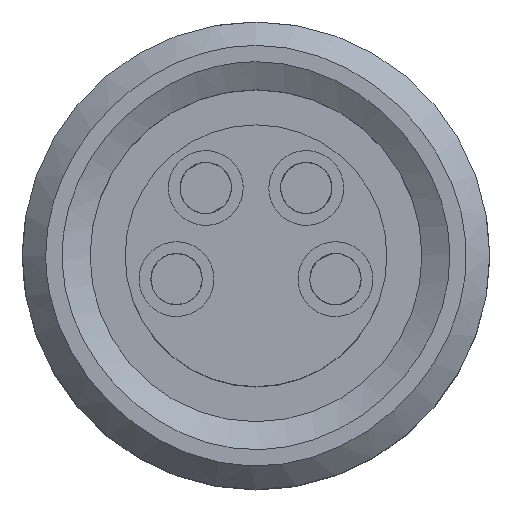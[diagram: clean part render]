
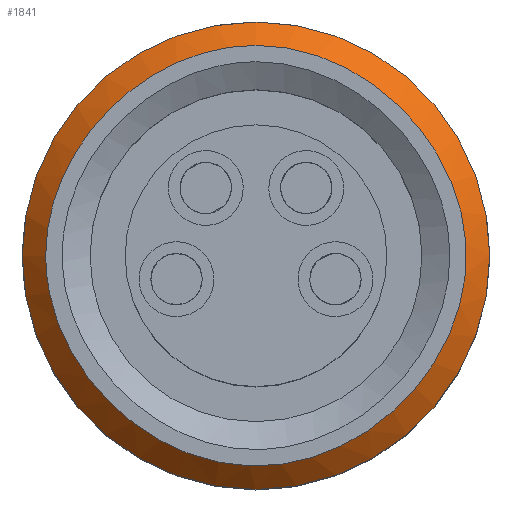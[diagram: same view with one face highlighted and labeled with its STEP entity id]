
A CAD part, top view. The second image highlights one B-rep face of the part: STEP entity #1841.
In plain terms, the highlighted conical face has half-angle 45 degrees and reference radius 5 mm.
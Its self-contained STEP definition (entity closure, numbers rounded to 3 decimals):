
#1455=CONICAL_SURFACE('',#3878,5.,45.);
#1675=B_SPLINE_CURVE_WITH_KNOTS('',3,(#6910,#6911,#6912,#6913,#6914,#6915,
#6916,#6917,#6918,#6919),.UNSPECIFIED.,.T.,.F.,(2,2,2,2,2,2,2),(-0.25,0.,
0.25,0.5,0.75,1.,1.25),.UNSPECIFIED.);
#1841=ADVANCED_FACE('',(#2067,#2068),#1455,.T.);
#2067=FACE_BOUND('',#2304,.T.);
#2068=FACE_BOUND('',#2305,.T.);
#2304=EDGE_LOOP('',(#2990));
#2305=EDGE_LOOP('',(#2991));
#2990=ORIENTED_EDGE('',*,*,#3585,.T.);
#2991=ORIENTED_EDGE('',*,*,#3584,.F.);
#3241=VERTEX_POINT('',#6908);
#3242=VERTEX_POINT('',#6920);
#3584=EDGE_CURVE('',#3241,#3241,#3660,.T.);
#3585=EDGE_CURVE('',#3242,#3242,#1675,.T.);
#3660=CIRCLE('',#3876,5.);
#3876=AXIS2_PLACEMENT_3D('',#6907,#4388,#4389);
#3878=AXIS2_PLACEMENT_3D('',#6921,#4392,#4393);
#4388=DIRECTION('',(0.,0.,-1.));
#4389=DIRECTION('',(-1.,0.,0.));
#4392=DIRECTION('',(0.,0.,-1.));
#4393=DIRECTION('',(-1.,0.,0.));
#6907=CARTESIAN_POINT('',(0.,0.,5.177));
#6908=CARTESIAN_POINT('',(-5.,0.,5.177));
#6910=CARTESIAN_POINT('',(-2.356,4.5,5.677));
#6911=CARTESIAN_POINT('',(2.356,4.5,5.677));
#6912=CARTESIAN_POINT('',(4.5,2.356,5.677));
#6913=CARTESIAN_POINT('',(4.5,-2.356,5.677));
#6914=CARTESIAN_POINT('',(2.356,-4.5,5.677));
#6915=CARTESIAN_POINT('',(-2.356,-4.5,5.677));
#6916=CARTESIAN_POINT('',(-4.5,-2.356,5.677));
#6917=CARTESIAN_POINT('',(-4.5,2.356,5.677));
#6918=CARTESIAN_POINT('',(-2.356,4.5,5.677));
#6919=CARTESIAN_POINT('',(2.356,4.5,5.677));
#6920=CARTESIAN_POINT('',(0.,4.5,5.677));
#6921=CARTESIAN_POINT('',(0.,0.,5.177));
